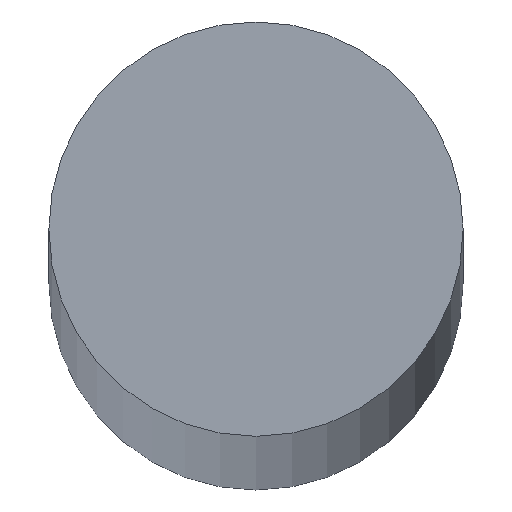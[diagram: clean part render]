
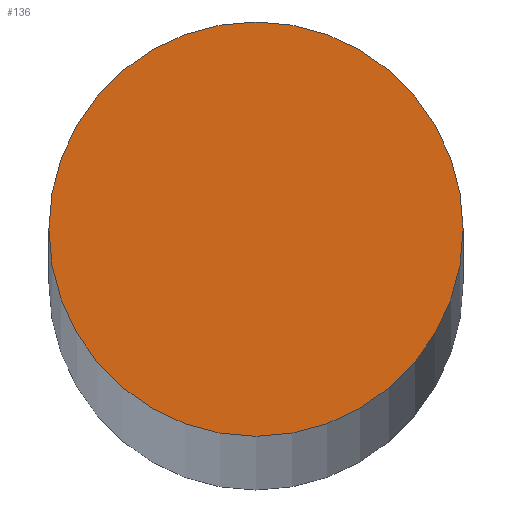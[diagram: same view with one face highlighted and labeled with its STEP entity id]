
A CAD part, top view. The second image highlights one B-rep face of the part: STEP entity #136.
In plain terms, the highlighted planar face has unit normal (0, 0, 1).
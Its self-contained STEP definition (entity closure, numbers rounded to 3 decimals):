
#8 = ORIENTED_EDGE ( 'NONE', *, *, #55, .T. ) ;
#9 = ORIENTED_EDGE ( 'NONE', *, *, #53, .T. ) ;
#23 = EDGE_LOOP ( 'NONE', ( #9, #8 ) ) ;
#26 = CIRCLE ( 'NONE', #52, 6. ) ;
#27 = CIRCLE ( 'NONE', #65, 6. ) ;
#30 = FACE_OUTER_BOUND ( 'NONE', #23, .T. ) ;
#52 = AXIS2_PLACEMENT_3D ( 'NONE', #84, #85, #86 ) ;
#53 = EDGE_CURVE ( 'NONE', #75, #74, #26, .T. ) ;
#55 = EDGE_CURVE ( 'NONE', #74, #75, #27, .T. ) ;
#59 = AXIS2_PLACEMENT_3D ( 'NONE', #100, #109, #110 ) ;
#65 = AXIS2_PLACEMENT_3D ( 'NONE', #87, #88, #89 ) ;
#74 = VERTEX_POINT ( 'NONE', #97 ) ;
#75 = VERTEX_POINT ( 'NONE', #103 ) ;
#84 = CARTESIAN_POINT ( 'NONE',  ( 0., 0., 445.5 ) ) ;
#85 = DIRECTION ( 'NONE',  ( 0., 0., 1. ) ) ;
#86 = DIRECTION ( 'NONE',  ( 1., 0., 0. ) ) ;
#87 = CARTESIAN_POINT ( 'NONE',  ( 0., 0., 445.5 ) ) ;
#88 = DIRECTION ( 'NONE',  ( 0., 0., 1. ) ) ;
#89 = DIRECTION ( 'NONE',  ( 1., 0., 0. ) ) ;
#97 = CARTESIAN_POINT ( 'NONE',  ( 6., 0., 445.5 ) ) ;
#100 = CARTESIAN_POINT ( 'NONE',  ( 0., 0., 445.5 ) ) ;
#103 = CARTESIAN_POINT ( 'NONE',  ( -6., 0., 445.5 ) ) ;
#106 = PLANE ( 'NONE',  #59 ) ;
#109 = DIRECTION ( 'NONE',  ( 0., 0., 1. ) ) ;
#110 = DIRECTION ( 'NONE',  ( 1., 0., 0. ) ) ;
#136 = ADVANCED_FACE ( 'NONE', ( #30 ), #106, .T. ) ;
